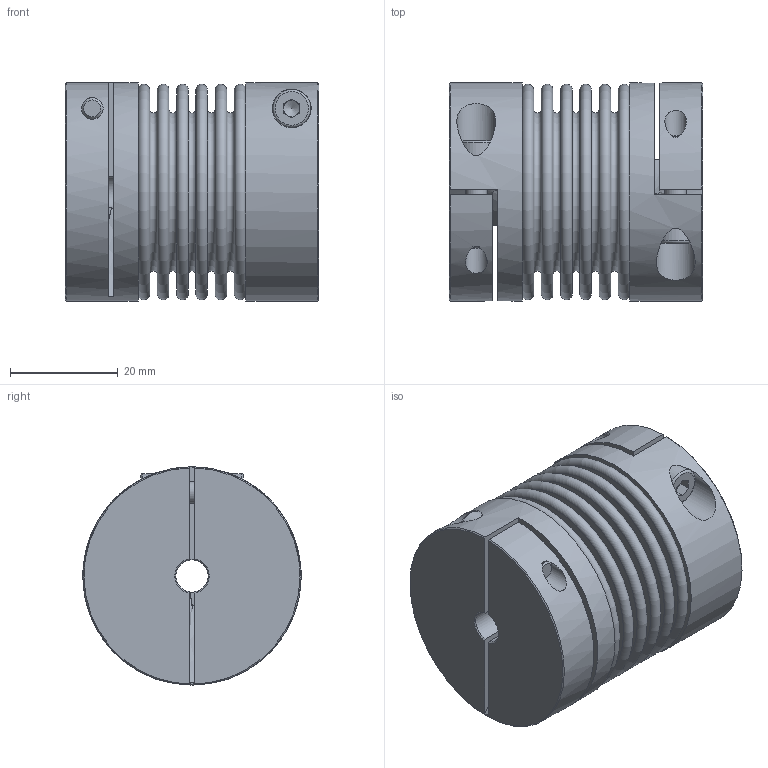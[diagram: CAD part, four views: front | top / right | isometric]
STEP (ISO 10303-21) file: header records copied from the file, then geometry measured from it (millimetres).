
FILE_DESCRIPTION(/* description */ ('STEP AP203'),/* implementation_level */ '2;1');
FILE_NAME(/* name */ 'KB2-100-47-6-6',/* time_stamp */ '2022-09-12T12:41:37+02:00',/* author */ ('License CC BY-ND 4.0'),/* organization */ ('CADENAS'),/* preprocessor_version */ 'ST-DEVELOPER v18.102',/* originating_system */ 'PARTsolutions',/* authorisation */ ' ');
FILE_SCHEMA (('CONFIG_CONTROL_DESIGN'));
Length unit declared in the file: millimetre
Products named in the file (1): KB2-100-47-6-6
Bounding box: 47 x 40.5 x 40.5 mm (x, y, z)
Volume: 33643.1 mm3; surface area: 27485 mm2
Topology: 1 solids, 1 shells, 128 faces, 270 edges, 176 vertices
Faces by surface type: plane 72, torus 24, cylinder 22, cone 10
Full cylindrical faces by diameter (mm): 4 x4, 4.2 x2, 6 x2, 7 x2, 7.2 x2, 30.66 x2, 40.5 x2
Entity records: 3264 total; most frequent: CARTESIAN_POINT 641, DIRECTION 564, ORIENTED_EDGE 428, AXIS2_PLACEMENT_3D 241, EDGE_CURVE 214, FACE_BOUND 212, EDGE_LOOP 210, VERTEX_POINT 166
